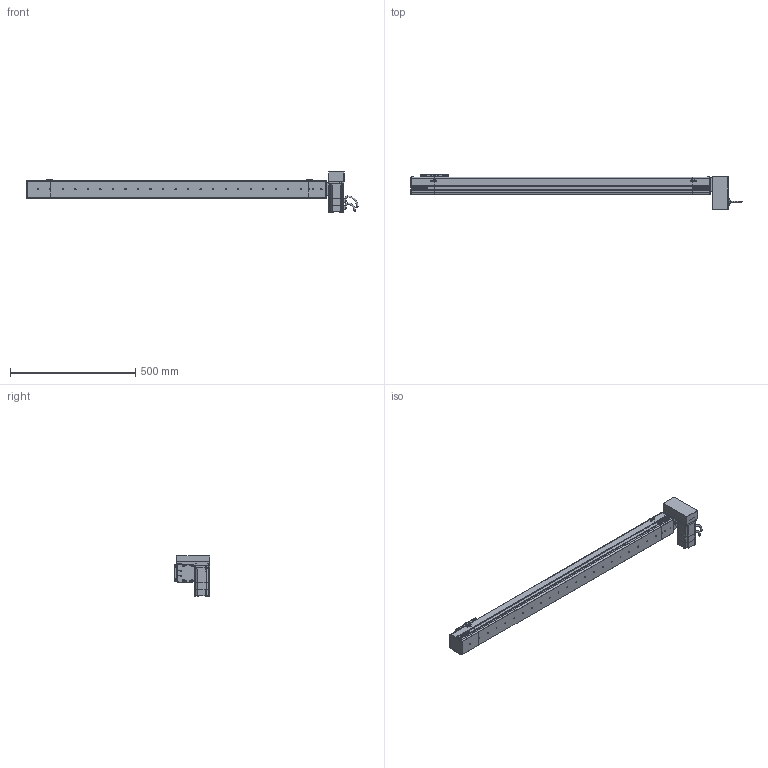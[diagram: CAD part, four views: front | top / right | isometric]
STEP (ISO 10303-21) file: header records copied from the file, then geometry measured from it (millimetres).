
FILE_DESCRIPTION (( 'STEP AP214' ), '1' );
FILE_NAME ('S07 CBN LU S1100.STEP', '2010-06-29T10:19:29', ( 'Conseil Régional Haute-Normandie' ), ( 'Conseil Régional Haute-Normandie' ), 'SwSTEP 2.0', 'SolidWorks 2010', '' );
FILE_SCHEMA (( 'AUTOMOTIVE_DESIGN' ));
Length unit declared in the file: millimetre
Products named in the file (31): Axe 60BLDC_Default; support chariot_Default; chariot_Default; Chariot S07_Default; vis M5 L15_Default; Corp Tail_Default; Tail S07 Tail_Default; Couvercle S07 S1100_Default; plaque de serrage Tail_Default; Plaque de bout Tail_Default; Couvercle Tail_Default; Corp S07 S1100_Default; VisM3_Default; Conecteur2 60BLDC_Default; Conecteur 60BLDC_Default; vis M5 L8_Default; Head LU_Default; S07 CBN LU S1100; plaque de serrage LU_Default; Plaque de bout LU_Default; Corp LU_Default; Rondelle de Serrage LU_Default; Couvercle LU_Default; Cache Support Moteur LU_Default; P1_Default; 60BLDC90A-640_Default; Support Moteur LU_Default; P4_Default; P3 90A_Default; P2 90A_Default
Assembly tree (71 placements, depth 4):
  S07 CBN LU S1100
    Chariot S07_Default
      vis M5 L8_Default  x8
      support chariot_Default
      chariot_Default
    Head LU_Default
      vis M5 L15_Default  x16
      Rondelle de Serrage LU_Default  x3
      Support Moteur LU_Default
      Cache Support Moteur LU_Default
      Corp LU_Default
      Plaque de bout LU_Default
      plaque de serrage LU_Default
      60BLDC90A-640_Default
        VisM3_Default  x12
        Conecteur 60BLDC_Default
        Conecteur2 60BLDC_Default
        P3 90A_Default
        P1_Default
        P4_Default
        P2 90A_Default
        Axe 60BLDC_Default
      Couvercle LU_Default
    Corp S07 S1100_Default
      Couvercle S07 S1100_Default
      Corp S07 S1100_Default
    Tail S07 Tail_Default
      Plaque de bout Tail_Default
      vis M5 L15_Default  x6
      Couvercle Tail_Default
      plaque de serrage Tail_Default
      Corp Tail_Default
Bounding box: 1325.7 x 142 x 162 mm (x, y, z)
Volume: 6578687.1 mm3; surface area: 803474.1 mm2
Topology: 108 solids, 108 shells, 3916 faces, 9638 edges, 6204 vertices
Faces by surface type: plane 2258, bspline 756, cylinder 691, torus 112, cone 95, sphere 4
Entity records: 153993 total; most frequent: CARTESIAN_POINT 79695, ORIENTED_EDGE 14796, DIRECTION 11091, EDGE_CURVE 7398, VERTEX_POINT 4889, LINE 4789, VECTOR 4789, EDGE_LOOP 3181
